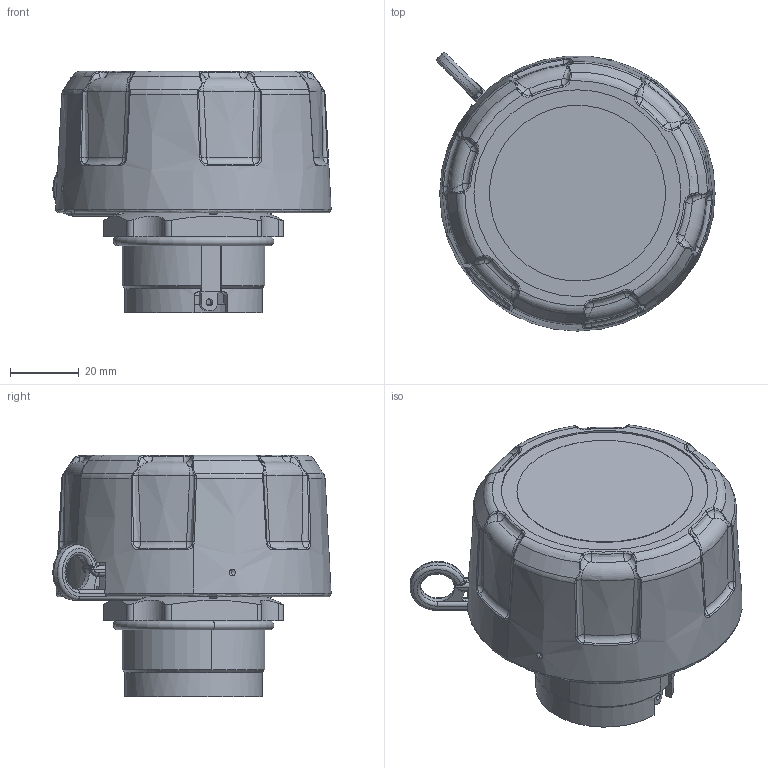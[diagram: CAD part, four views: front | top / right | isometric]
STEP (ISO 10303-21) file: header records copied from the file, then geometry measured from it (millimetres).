
FILE_DESCRIPTION((''),'2;1');
FILE_NAME('MANIFOLD_SOLID_BREP_25474','2017-09-25T',('f.kollmann'),(''),'PRO/ENGINEER BY PARAMETRIC TECHNOLOGY CORPORATION, 2015110','PRO/ENGINEER BY PARAMETRIC TECHNOLOGY CORPORATION, 2015110','');
FILE_SCHEMA(('AUTOMOTIVE_DESIGN { 1 0 10303 214 1 1 1 1 }'));
Length unit declared in the file: millimetre
Products named in the file (1): MANIFOLD_SOLID_BREP_25474
Bounding box: 80.72 x 80.72 x 70 mm (x, y, z)
Volume: 220871.2 mm3; surface area: 27267.5 mm2
Topology: 1 solids, 1 shells, 449 faces, 1225 edges, 765 vertices
Faces by surface type: bspline 196, cylinder 85, plane 82, cone 38, torus 34, sphere 14
Entity records: 26303 total; most frequent: CARTESIAN_POINT 12261, ORIENTED_EDGE 2422, DIRECTION 1321, PRESENTATION_STYLE_ASSIGNMENT 1244, STYLED_ITEM 1212, CURVE_STYLE 1211, EDGE_CURVE 1211, VERTEX_POINT 765
